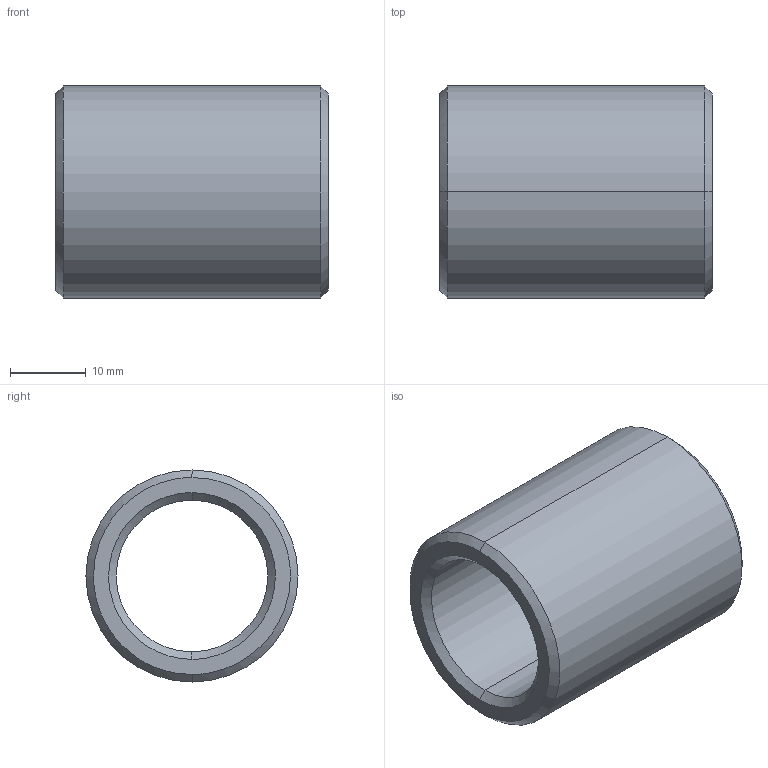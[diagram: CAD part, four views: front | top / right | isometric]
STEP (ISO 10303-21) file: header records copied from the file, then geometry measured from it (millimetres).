
FILE_DESCRIPTION(('CATIA V5 STEP Exchange'),'2;1');
FILE_NAME('C:\Users\Utente\Desktop\IO LAVORO\3D X SITO CF\X SITO\PLASTICA\352\352-20X36.stp','2021-04-12T15:22:55+00:00',('none'),('none'),'CATIA Version 5 Release 20 GA (IN-10)','CATIA V5 STEP AP203','none');
FILE_SCHEMA(('CONFIG_CONTROL_DESIGN'));
Length unit declared in the file: millimetre
Products named in the file (1): 352-20X36
Bounding box: 36 x 28 x 28 mm (x, y, z)
Volume: 10725.2 mm3; surface area: 5864.2 mm2
Topology: 1 solids, 1 shells, 14 faces, 44 edges, 32 vertices
Faces by surface type: cone 6, cylinder 4, plane 2, torus 2
Entity records: 634 total; most frequent: CARTESIAN_POINT 203, ORIENTED_EDGE 88, DIRECTION 64, EDGE_CURVE 44, AXIS2_PLACEMENT_3D 41, VERTEX_POINT 32, CIRCLE 26, EDGE_LOOP 16
